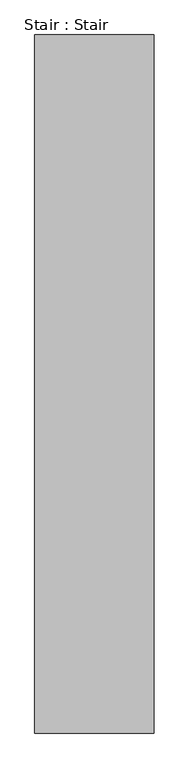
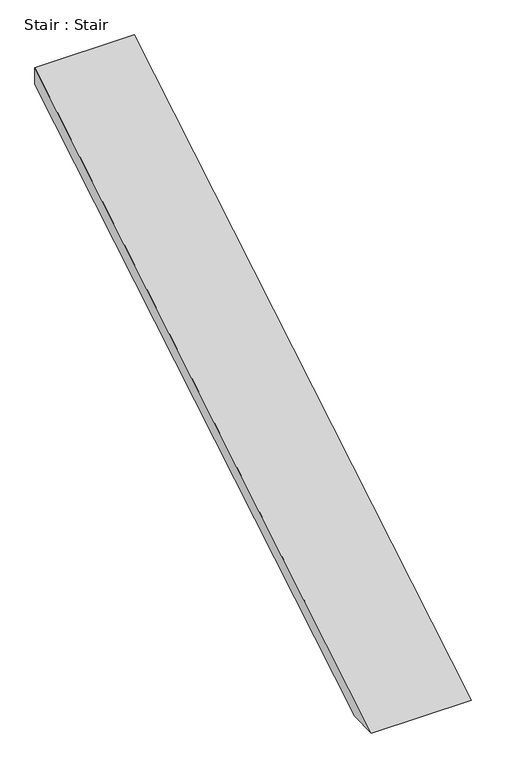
"""IFC4 building model written with IfcOpenShell, lengths in millimetres: proxy geometry, Stair : Stair."""

from ifc_helpers import new_model, si_unit, frame, origin, place, context, project, spatial, polyline, outline, extrude, source, transform, mapped, element, save


def stair_stair_a09dc415(model_context):
    return source(origin(), model_context, "Body", "SweptSolid", [
        extrude(outline(polyline([(-12208.8875599, 0.0), (-6354.2233484, 3512.7985269), (-6354.2233484, 3337.8699701), (-11917.3399651, 0.0), (-12208.8875599, 0.0)])), frame((19081.9375783, 0.0, 0.0), z_axis=(1.0, 0.0, 0.0), x_axis=(0.0, 1.0, 0.0)), (0.0, 0.0, 1.0), 1000.0),
    ])


if __name__ == "__main__":
    model = new_model("IFC4")
    model_context = context("Model", 3, world=origin())
    ifc_project = project(units=[si_unit("LENGTHUNIT", "METRE", prefix="MILLI")], contexts=[model_context])
    site = spatial("IfcSite", under=ifc_project)
    building = spatial("IfcBuilding", under=site)
    placement = place(None, origin())
    stair_stair_shape = stair_stair_a09dc415(model_context)
    element("IfcBuildingElementProxy", 1, Name="Stair : Stair", ObjectType="Stair : Stair", at=placement, inside=building, context=model_context, shape_type="MappedRepresentation", body=[
        mapped(stair_stair_shape, transform((0.0, 0.0, 0.0), x_axis=(1.0, 0.0, 0.0), y_axis=(0.0, 1.0, 0.0), z_axis=(0.0, 0.0, 1.0))),
    ])
    save(model, "model.ifc")
